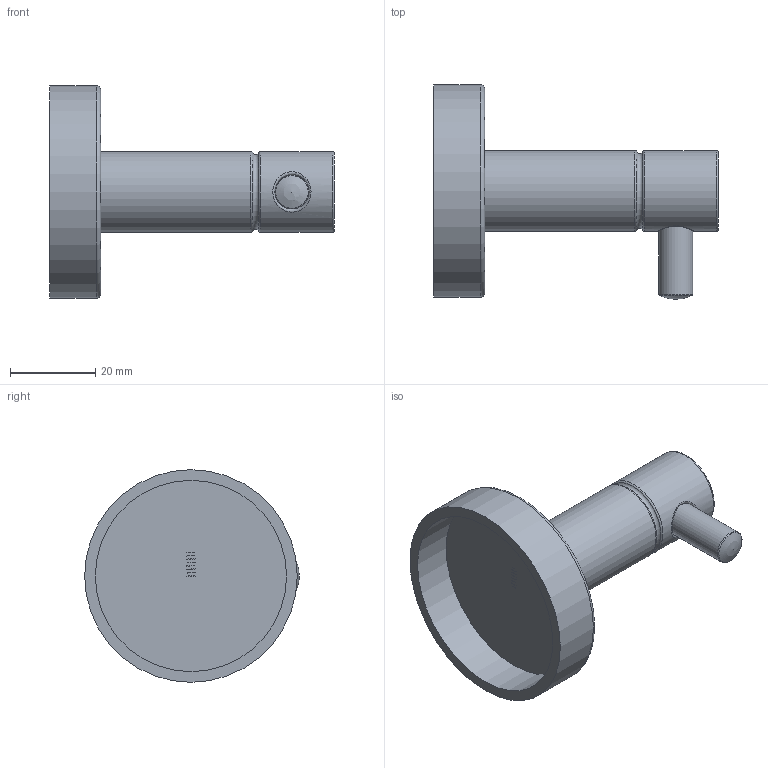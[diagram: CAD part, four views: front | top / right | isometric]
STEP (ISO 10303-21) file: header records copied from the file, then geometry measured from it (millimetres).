
FILE_DESCRIPTION(/* description */ (''),/* implementation_level */ '2;1');
FILE_NAME(/* name */ '11752.02.stp',/* time_stamp */ '2026-06-09T14:34:50+08:00',/* author */ (''),/* organization */ (''),/* preprocessor_version */ 'ST-DEVELOPER v16',/* originating_system */ 'SIEMENS PLM Software NX 10.0',/* authorisation */ '');
FILE_SCHEMA (('AUTOMOTIVE_DESIGN { 1 0 10303 214 3 1 1 1 }'));
Length unit declared in the file: millimetre
Products named in the file (5): 凸杆; M5×0.8 L8紧定螺钉; 支架杆; 墙盖; 11752.02
Assembly tree (4 placements, depth 2):
  11752.02
    墙盖
    支架杆
    M5×0.8 L8紧定螺钉
    凸杆
Bounding box: 67 x 50.5 x 50 mm (x, y, z)
Volume: 24725.7 mm3; surface area: 11792.5 mm2
Topology: 4 solids, 4 shells, 35 faces, 74 edges, 48 vertices
Faces by surface type: plane 15, cylinder 8, torus 6, bspline 3, cone 2, sphere 1
Full cylindrical faces by diameter (mm): 8 x2, 19 x2, 45 x1, 50 x1
Entity records: 5530 total; most frequent: CARTESIAN_POINT 4803, DIRECTION 130, ORIENTED_EDGE 96, AXIS2_PLACEMENT_3D 56, EDGE_LOOP 50, EDGE_CURVE 48, VERTEX_POINT 40, FACE_BOUND 35
